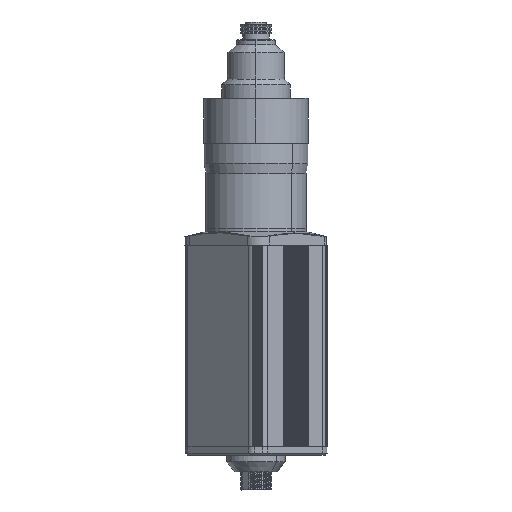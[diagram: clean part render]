
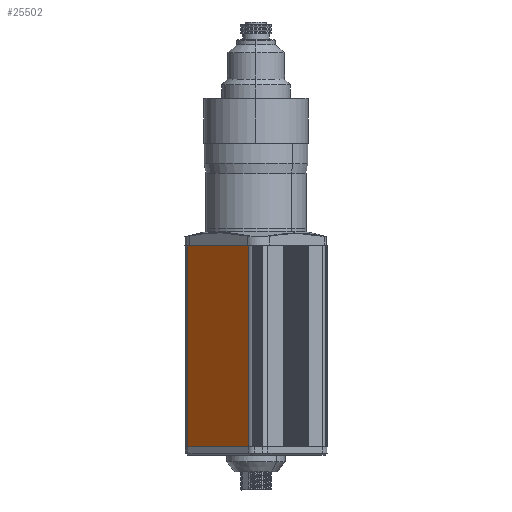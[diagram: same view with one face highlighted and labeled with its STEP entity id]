
A CAD part, left-side view. The second image highlights one B-rep face of the part: STEP entity #25502.
In plain terms, the highlighted planar face has unit normal (-0.707, 0.707, 0).
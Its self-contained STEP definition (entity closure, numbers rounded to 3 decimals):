
#1396 = DIRECTION ( 'NONE',  ( 0., 0., -1. ) ) ;
#3685 = VERTEX_POINT ( 'NONE', #21830 ) ;
#3819 = DIRECTION ( 'NONE',  ( 0., 0., 1. ) ) ;
#4251 = CARTESIAN_POINT ( 'NONE',  ( -4.293, 40.538, -180.5 ) ) ;
#4802 = LINE ( 'NONE', #4251, #19787 ) ;
#4855 = VERTEX_POINT ( 'NONE', #10543 ) ;
#4995 = EDGE_CURVE ( 'NONE', #12326, #21782, #13850, .T. ) ;
#6832 = VECTOR ( 'NONE', #1396, 1000. ) ;
#8983 = CARTESIAN_POINT ( 'NONE',  ( -40.538, 4.293, -60.5 ) ) ;
#10543 = CARTESIAN_POINT ( 'NONE',  ( -4.293, 40.538, -180.5 ) ) ;
#10707 = DIRECTION ( 'NONE',  ( 0., 0., -1. ) ) ;
#11946 = LINE ( 'NONE', #8983, #6832 ) ;
#12119 = VECTOR ( 'NONE', #10707, 1000. ) ;
#12326 = VERTEX_POINT ( 'NONE', #22359 ) ;
#13850 = LINE ( 'NONE', #16809, #17398 ) ;
#14043 = DIRECTION ( 'NONE',  ( -0.707, -0.707, 0. ) ) ;
#15440 = PLANE ( 'NONE',  #16864 ) ;
#16078 = DIRECTION ( 'NONE',  ( -0.707, -0.707, 0. ) ) ;
#16805 = CARTESIAN_POINT ( 'NONE',  ( -4.293, 40.538, -60.5 ) ) ;
#16809 = CARTESIAN_POINT ( 'NONE',  ( -4.293, 40.538, -60.5 ) ) ;
#16864 = AXIS2_PLACEMENT_3D ( 'NONE', #34258, #26160, #3819 ) ;
#17398 = VECTOR ( 'NONE', #14043, 1000. ) ;
#17504 = FACE_OUTER_BOUND ( 'NONE', #25861, .T. ) ;
#18367 = EDGE_CURVE ( 'NONE', #12326, #4855, #25095, .T. ) ;
#19787 = VECTOR ( 'NONE', #16078, 1000. ) ;
#20061 = ORIENTED_EDGE ( 'NONE', *, *, #4995, .F. ) ;
#21576 = ORIENTED_EDGE ( 'NONE', *, *, #36401, .T. ) ;
#21782 = VERTEX_POINT ( 'NONE', #28749 ) ;
#21830 = CARTESIAN_POINT ( 'NONE',  ( -40.538, 4.293, -180.5 ) ) ;
#22359 = CARTESIAN_POINT ( 'NONE',  ( -4.293, 40.538, -60.5 ) ) ;
#25095 = LINE ( 'NONE', #16805, #12119 ) ;
#25312 = ORIENTED_EDGE ( 'NONE', *, *, #18367, .T. ) ;
#25502 = ADVANCED_FACE ( 'NONE', ( #17504 ), #15440, .F. ) ;
#25554 = EDGE_CURVE ( 'NONE', #21782, #3685, #11946, .T. ) ;
#25861 = EDGE_LOOP ( 'NONE', ( #21576, #33249, #20061, #25312 ) ) ;
#26160 = DIRECTION ( 'NONE',  ( 0.707, -0.707, 0. ) ) ;
#28749 = CARTESIAN_POINT ( 'NONE',  ( -40.538, 4.293, -60.5 ) ) ;
#33249 = ORIENTED_EDGE ( 'NONE', *, *, #25554, .F. ) ;
#34258 = CARTESIAN_POINT ( 'NONE',  ( -4.293, 40.538, -60.5 ) ) ;
#36401 = EDGE_CURVE ( 'NONE', #4855, #3685, #4802, .T. ) ;
